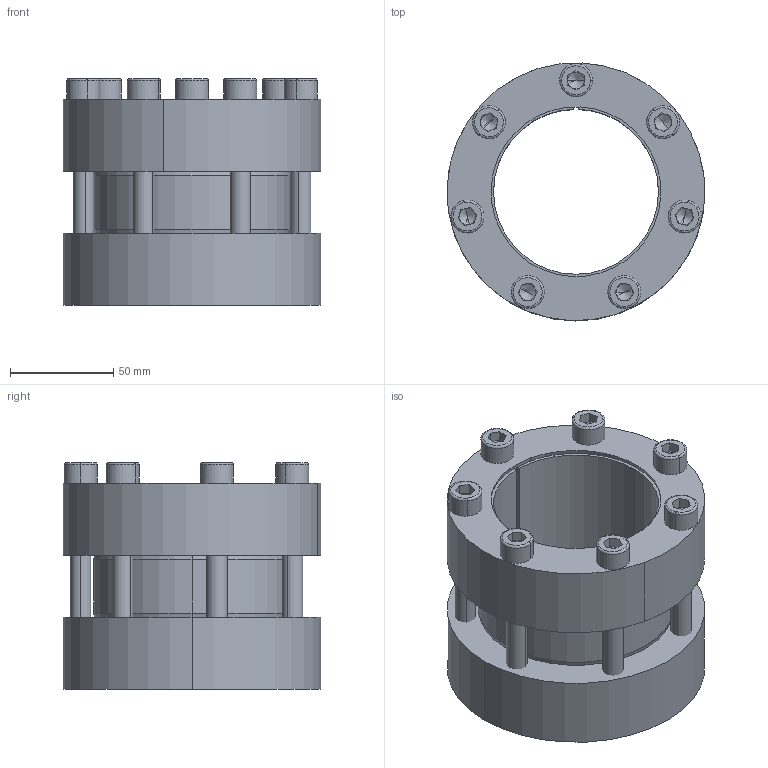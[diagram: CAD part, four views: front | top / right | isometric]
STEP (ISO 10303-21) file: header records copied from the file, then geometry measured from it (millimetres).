
FILE_DESCRIPTION (( 'STEP AP214' ), '1' );
FILE_NAME ('CONEX-M-80x125.step', '2013-04-06T13:25:58', ( 'Pc' ), ( '' ), 'SwSTEP 2.0', 'SolidWorks 2013', '' );
FILE_SCHEMA (( 'AUTOMOTIVE_DESIGN' ));
Length unit declared in the file: millimetre
Products named in the file (1): CONEX-M-80x125
Bounding box: 125 x 125 x 109.99 mm (x, y, z)
Volume: 585766.1 mm3; surface area: 162518 mm2
Topology: 10 solids, 10 shells, 245 faces, 552 edges, 327 vertices
Faces by surface type: plane 113, cylinder 66, cone 38, torus 28
Entity records: 9603 total; most frequent: DIRECTION 1284, CARTESIAN_POINT 1138, ORIENTED_EDGE 1076, EDGE_CURVE 538, AXIS2_PLACEMENT_3D 504, VERTEX_POINT 327, EDGE_LOOP 291, LINE 276
